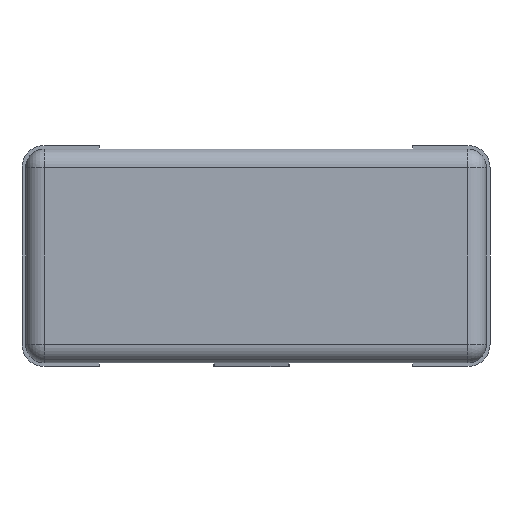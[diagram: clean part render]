
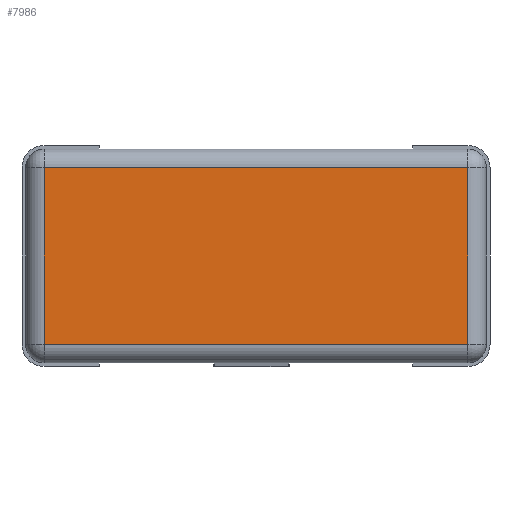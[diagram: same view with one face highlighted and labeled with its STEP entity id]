
A CAD part, left-side view. The second image highlights one B-rep face of the part: STEP entity #7986.
In plain terms, the highlighted planar face has unit normal (-1, 0, 0).
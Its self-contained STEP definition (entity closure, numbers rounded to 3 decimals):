
#288 = AXIS2_PLACEMENT_3D ( 'NONE', #15336, #13889, #9026 ) ;
#2470 = VECTOR ( 'NONE', #17462, 1000. ) ;
#2911 = ORIENTED_EDGE ( 'NONE', *, *, #5509, .T. ) ;
#4206 = CARTESIAN_POINT ( 'NONE',  ( -1., 0.575, 0.24 ) ) ;
#4996 = FACE_OUTER_BOUND ( 'NONE', #16017, .T. ) ;
#5509 = EDGE_CURVE ( 'NONE', #10201, #9576, #15484, .T. ) ;
#7190 = CARTESIAN_POINT ( 'NONE',  ( -1., 0.575, -0.24 ) ) ;
#7795 = VECTOR ( 'NONE', #11061, 1000. ) ;
#7986 = ADVANCED_FACE ( 'NONE', ( #4996 ), #13694, .F. ) ;
#8422 = CARTESIAN_POINT ( 'NONE',  ( -1., 0.625, 0.24 ) ) ;
#9026 = DIRECTION ( 'NONE',  ( 0., 1., 0. ) ) ;
#9532 = LINE ( 'NONE', #8422, #16355 ) ;
#9576 = VERTEX_POINT ( 'NONE', #15963 ) ;
#9726 = DIRECTION ( 'NONE',  ( 0., 1., 0. ) ) ;
#9746 = ORIENTED_EDGE ( 'NONE', *, *, #16670, .T. ) ;
#10201 = VERTEX_POINT ( 'NONE', #13919 ) ;
#10325 = VERTEX_POINT ( 'NONE', #7190 ) ;
#10691 = DIRECTION ( 'NONE',  ( 0., 0., -1. ) ) ;
#10974 = EDGE_CURVE ( 'NONE', #16779, #10325, #16601, .T. ) ;
#11061 = DIRECTION ( 'NONE',  ( 0., 0., 1. ) ) ;
#11437 = CARTESIAN_POINT ( 'NONE',  ( -1., 0.625, -0.24 ) ) ;
#12298 = CARTESIAN_POINT ( 'NONE',  ( -1., 0.575, 0.29 ) ) ;
#12449 = LINE ( 'NONE', #11437, #2470 ) ;
#13694 = PLANE ( 'NONE',  #288 ) ;
#13889 = DIRECTION ( 'NONE',  ( 1., 0., 0. ) ) ;
#13919 = CARTESIAN_POINT ( 'NONE',  ( -1., -0.575, -0.24 ) ) ;
#14027 = CARTESIAN_POINT ( 'NONE',  ( -1., -0.575, 0.29 ) ) ;
#14918 = ORIENTED_EDGE ( 'NONE', *, *, #10974, .T. ) ;
#15336 = CARTESIAN_POINT ( 'NONE',  ( -1., 0.625, 0.29 ) ) ;
#15484 = LINE ( 'NONE', #14027, #7795 ) ;
#15963 = CARTESIAN_POINT ( 'NONE',  ( -1., -0.575, 0.24 ) ) ;
#16017 = EDGE_LOOP ( 'NONE', ( #9746, #14918, #19236, #2911 ) ) ;
#16184 = VECTOR ( 'NONE', #10691, 1000. ) ;
#16355 = VECTOR ( 'NONE', #9726, 1000. ) ;
#16363 = EDGE_CURVE ( 'NONE', #10325, #10201, #12449, .T. ) ;
#16601 = LINE ( 'NONE', #12298, #16184 ) ;
#16670 = EDGE_CURVE ( 'NONE', #9576, #16779, #9532, .T. ) ;
#16779 = VERTEX_POINT ( 'NONE', #4206 ) ;
#17462 = DIRECTION ( 'NONE',  ( 0., -1., 0. ) ) ;
#19236 = ORIENTED_EDGE ( 'NONE', *, *, #16363, .T. ) ;
